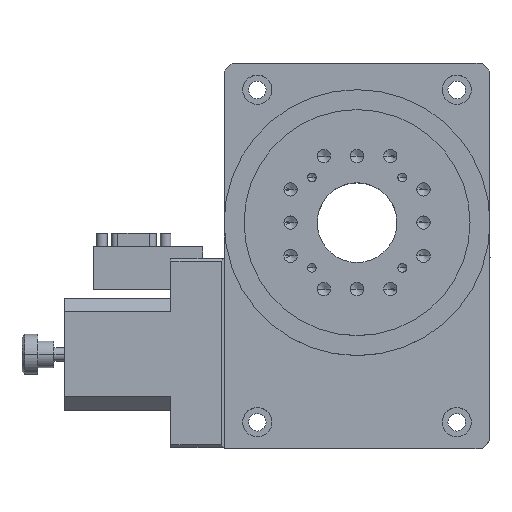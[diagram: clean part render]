
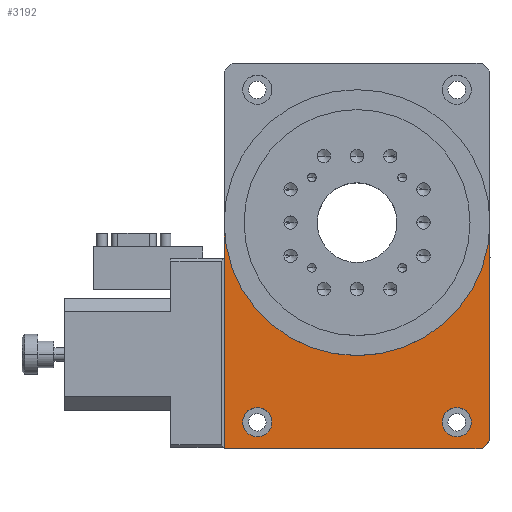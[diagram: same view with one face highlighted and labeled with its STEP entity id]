
A CAD part, top view. The second image highlights one B-rep face of the part: STEP entity #3192.
In plain terms, the highlighted planar face has unit normal (0, 0, 1).
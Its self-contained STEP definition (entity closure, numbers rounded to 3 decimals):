
#46 = CARTESIAN_POINT ( 'NONE',  ( 47., -85., 35. ) ) ;
#133 = VECTOR ( 'NONE', #5563, 1000. ) ;
#250 = VERTEX_POINT ( 'NONE', #7595 ) ;
#278 = CARTESIAN_POINT ( 'NONE',  ( -50., -13.5, 35. ) ) ;
#553 = VERTEX_POINT ( 'NONE', #278 ) ;
#705 = LINE ( 'NONE', #9156, #1182 ) ;
#763 = VERTEX_POINT ( 'NONE', #6911 ) ;
#784 = CARTESIAN_POINT ( 'NONE',  ( 43., -75., 35. ) ) ;
#910 = VERTEX_POINT ( 'NONE', #6315 ) ;
#1097 = DIRECTION ( 'NONE',  ( 1., 0., 0. ) ) ;
#1182 = VECTOR ( 'NONE', #9207, 1000. ) ;
#1274 = ORIENTED_EDGE ( 'NONE', *, *, #5831, .T. ) ;
#1287 = CARTESIAN_POINT ( 'NONE',  ( 37.5, -75., 35. ) ) ;
#1513 = VECTOR ( 'NONE', #12346, 1000. ) ;
#1636 = EDGE_CURVE ( 'NONE', #10962, #6122, #12960, .T. ) ;
#1812 = EDGE_CURVE ( 'NONE', #763, #9468, #10798, .T. ) ;
#1844 = EDGE_LOOP ( 'NONE', ( #5956, #8635 ) ) ;
#1905 = DIRECTION ( 'NONE',  ( 0., 0., -1. ) ) ;
#1916 = EDGE_CURVE ( 'NONE', #12476, #553, #2474, .T. ) ;
#1998 = CARTESIAN_POINT ( 'NONE',  ( 50., 0., 35. ) ) ;
#2189 = CARTESIAN_POINT ( 'NONE',  ( -32., -75., 35. ) ) ;
#2381 = VERTEX_POINT ( 'NONE', #6730 ) ;
#2474 = LINE ( 'NONE', #5006, #13288 ) ;
#3113 = FACE_OUTER_BOUND ( 'NONE', #3706, .T. ) ;
#3192 = ADVANCED_FACE ( 'NONE', ( #3113, #11928, #5287 ), #6502, .T. ) ;
#3286 = ORIENTED_EDGE ( 'NONE', *, *, #1636, .T. ) ;
#3317 = CARTESIAN_POINT ( 'NONE',  ( -50., 0., 35. ) ) ;
#3617 = ORIENTED_EDGE ( 'NONE', *, *, #1916, .T. ) ;
#3637 = EDGE_LOOP ( 'NONE', ( #5067, #7430 ) ) ;
#3706 = EDGE_LOOP ( 'NONE', ( #3286, #6773, #3617, #1274, #10847, #10465, #4801 ) ) ;
#3730 = EDGE_CURVE ( 'NONE', #910, #12412, #6263, .T. ) ;
#3899 = DIRECTION ( 'NONE',  ( -1., 0., 0. ) ) ;
#3919 = AXIS2_PLACEMENT_3D ( 'NONE', #13257, #5880, #8039 ) ;
#4349 = VECTOR ( 'NONE', #3899, 1000. ) ;
#4801 = ORIENTED_EDGE ( 'NONE', *, *, #11053, .F. ) ;
#4806 = VECTOR ( 'NONE', #11380, 1000. ) ;
#5006 = CARTESIAN_POINT ( 'NONE',  ( -50., 50., 35. ) ) ;
#5067 = ORIENTED_EDGE ( 'NONE', *, *, #13406, .T. ) ;
#5090 = EDGE_CURVE ( 'NONE', #12412, #910, #8253, .T. ) ;
#5287 = FACE_BOUND ( 'NONE', #3637, .T. ) ;
#5563 = DIRECTION ( 'NONE',  ( 0., -1., 0. ) ) ;
#5636 = DIRECTION ( 'NONE',  ( 0., 0., -1. ) ) ;
#5825 = EDGE_CURVE ( 'NONE', #6122, #12476, #11869, .T. ) ;
#5831 = EDGE_CURVE ( 'NONE', #553, #250, #10053, .T. ) ;
#5880 = DIRECTION ( 'NONE',  ( 0., 0., -1. ) ) ;
#5956 = ORIENTED_EDGE ( 'NONE', *, *, #5090, .T. ) ;
#6050 = CARTESIAN_POINT ( 'NONE',  ( -50., 50., 35. ) ) ;
#6122 = VERTEX_POINT ( 'NONE', #1998 ) ;
#6263 = CIRCLE ( 'NONE', #11394, 5.5 ) ;
#6265 = CARTESIAN_POINT ( 'NONE',  ( 0., 0., 35. ) ) ;
#6315 = CARTESIAN_POINT ( 'NONE',  ( -43., -75., 35. ) ) ;
#6366 = CARTESIAN_POINT ( 'NONE',  ( -50., -5., 35. ) ) ;
#6421 = AXIS2_PLACEMENT_3D ( 'NONE', #8554, #10678, #1097 ) ;
#6502 = PLANE ( 'NONE',  #6421 ) ;
#6730 = CARTESIAN_POINT ( 'NONE',  ( -50., -85., 35. ) ) ;
#6773 = ORIENTED_EDGE ( 'NONE', *, *, #5825, .T. ) ;
#6911 = CARTESIAN_POINT ( 'NONE',  ( 32., -75., 35. ) ) ;
#6976 = LINE ( 'NONE', #6050, #4806 ) ;
#7195 = CARTESIAN_POINT ( 'NONE',  ( -37.5, -75., 35. ) ) ;
#7430 = ORIENTED_EDGE ( 'NONE', *, *, #1812, .T. ) ;
#7595 = CARTESIAN_POINT ( 'NONE',  ( -50., -84.5, 35. ) ) ;
#8039 = DIRECTION ( 'NONE',  ( 1., 0., 0. ) ) ;
#8253 = CIRCLE ( 'NONE', #3919, 5.5 ) ;
#8554 = CARTESIAN_POINT ( 'NONE',  ( 0., -5., 35. ) ) ;
#8635 = ORIENTED_EDGE ( 'NONE', *, *, #3730, .T. ) ;
#8637 = AXIS2_PLACEMENT_3D ( 'NONE', #13017, #5636, #13060 ) ;
#9156 = CARTESIAN_POINT ( 'NONE',  ( 50., -82., 35. ) ) ;
#9207 = DIRECTION ( 'NONE',  ( -0.707, -0.707, 0. ) ) ;
#9330 = DIRECTION ( 'NONE',  ( 1., 0., 0. ) ) ;
#9456 = EDGE_CURVE ( 'NONE', #11324, #2381, #10010, .T. ) ;
#9468 = VERTEX_POINT ( 'NONE', #784 ) ;
#9731 = DIRECTION ( 'NONE',  ( 0., 0., -1. ) ) ;
#9797 = AXIS2_PLACEMENT_3D ( 'NONE', #1287, #9731, #11804 ) ;
#10005 = CARTESIAN_POINT ( 'NONE',  ( 50., -82., 35. ) ) ;
#10010 = LINE ( 'NONE', #12488, #4349 ) ;
#10053 = LINE ( 'NONE', #6366, #133 ) ;
#10465 = ORIENTED_EDGE ( 'NONE', *, *, #9456, .F. ) ;
#10580 = DIRECTION ( 'NONE',  ( 0., 0., -1. ) ) ;
#10678 = DIRECTION ( 'NONE',  ( 0., 0., 1. ) ) ;
#10798 = CIRCLE ( 'NONE', #8637, 5.5 ) ;
#10847 = ORIENTED_EDGE ( 'NONE', *, *, #11062, .T. ) ;
#10962 = VERTEX_POINT ( 'NONE', #10005 ) ;
#11053 = EDGE_CURVE ( 'NONE', #10962, #11324, #705, .T. ) ;
#11062 = EDGE_CURVE ( 'NONE', #250, #2381, #6976, .T. ) ;
#11144 = AXIS2_PLACEMENT_3D ( 'NONE', #6265, #10580, #12668 ) ;
#11324 = VERTEX_POINT ( 'NONE', #46 ) ;
#11380 = DIRECTION ( 'NONE',  ( 0., -1., 0. ) ) ;
#11394 = AXIS2_PLACEMENT_3D ( 'NONE', #7195, #1905, #9330 ) ;
#11804 = DIRECTION ( 'NONE',  ( 1., 0., 0. ) ) ;
#11869 = CIRCLE ( 'NONE', #11144, 50. ) ;
#11928 = FACE_BOUND ( 'NONE', #1844, .T. ) ;
#12214 = CIRCLE ( 'NONE', #9797, 5.5 ) ;
#12244 = CARTESIAN_POINT ( 'NONE',  ( 50., -5., 35. ) ) ;
#12346 = DIRECTION ( 'NONE',  ( 0., 1., 0. ) ) ;
#12412 = VERTEX_POINT ( 'NONE', #2189 ) ;
#12476 = VERTEX_POINT ( 'NONE', #3317 ) ;
#12488 = CARTESIAN_POINT ( 'NONE',  ( -50., -85., 35. ) ) ;
#12668 = DIRECTION ( 'NONE',  ( 1., 0., 0. ) ) ;
#12960 = LINE ( 'NONE', #12244, #1513 ) ;
#13017 = CARTESIAN_POINT ( 'NONE',  ( 37.5, -75., 35. ) ) ;
#13060 = DIRECTION ( 'NONE',  ( 1., 0., 0. ) ) ;
#13257 = CARTESIAN_POINT ( 'NONE',  ( -37.5, -75., 35. ) ) ;
#13288 = VECTOR ( 'NONE', #13512, 1000. ) ;
#13406 = EDGE_CURVE ( 'NONE', #9468, #763, #12214, .T. ) ;
#13512 = DIRECTION ( 'NONE',  ( 0., -1., 0. ) ) ;
